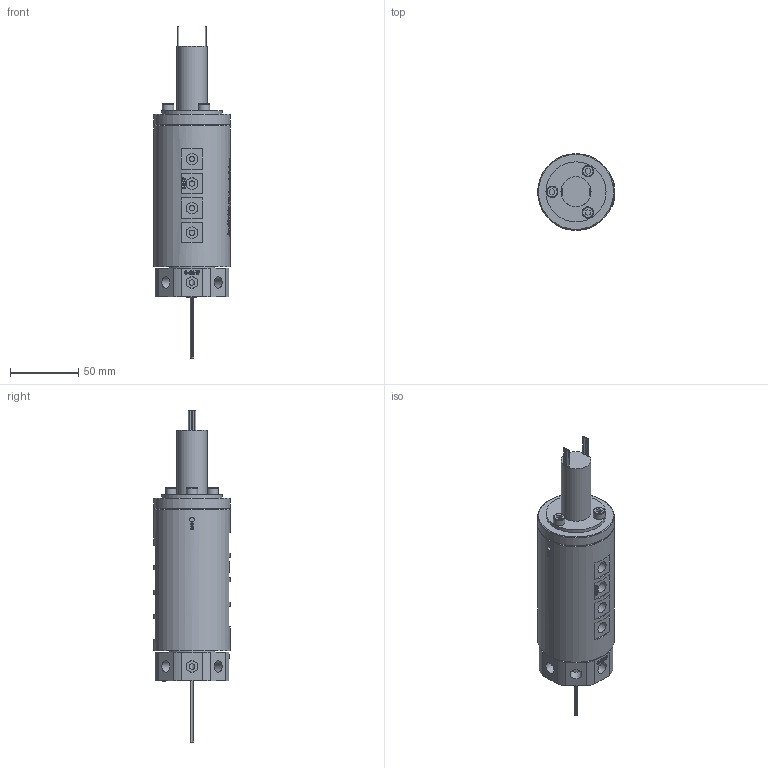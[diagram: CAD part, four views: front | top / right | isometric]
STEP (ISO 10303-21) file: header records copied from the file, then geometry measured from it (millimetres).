
FILE_DESCRIPTION(/* description */ (''),/* implementation_level */ '2;1');
FILE_NAME(/* name */ 'YQ0801-36M.stp',/* time_stamp */ '2025-02-15T15:33:17+08:00',/* author */ (''),/* organization */ (''),/* preprocessor_version */ 'ST-DEVELOPER v16.7',/* originating_system */ 'SIEMENS PLM Software NX 12.0',/* authorisation */ '');
FILE_SCHEMA (('AUTOMOTIVE_DESIGN { 1 0 10303 214 3 1 1 1 }'));
Products named in the file (1): HX0527348ECCpcis
Bounding box: 56.99 x 56 x 243.3 mm (x, y, z)
Volume: 335178.5 mm3; surface area: 47787.9 mm2
Topology: 1 solids, 5 shells, 1322 faces, 3500 edges, 2354 vertices
Faces by surface type: extrusion 642, plane 500, cylinder 137, bspline 33, cone 7, torus 3
Full cylindrical faces by diameter (mm): 0.8 x22, 3.4 x6, 4 x24, 4.1 x8, 4.2 x8, 5 x3, 5.5 x3, 8 x2, 8.5 x19, 22 x1, 34 x1, 44 x1, 56 x2
Entity records: 48448 total; most frequent: CARTESIAN_POINT 20795, ORIENTED_EDGE 6620, EDGE_CURVE 3310, DIRECTION 3299, B_SPLINE_CURVE_WITH_KNOTS 2982, VERTEX_POINT 2287, EDGE_LOOP 1619, ADVANCED_FACE 1319
